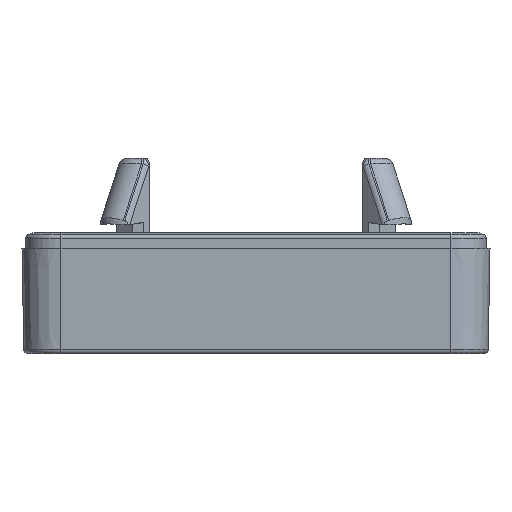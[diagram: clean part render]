
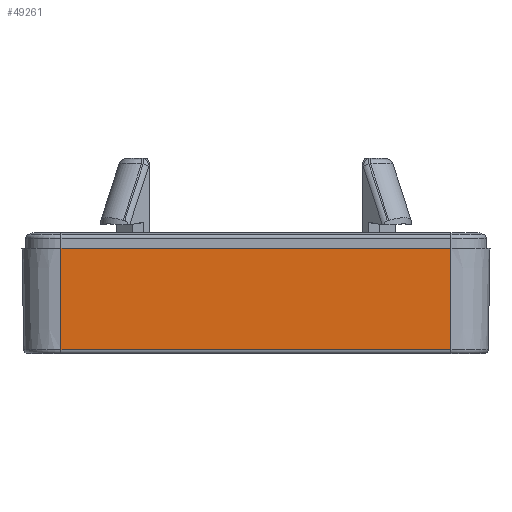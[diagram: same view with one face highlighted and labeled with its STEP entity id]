
A CAD part, left-side view. The second image highlights one B-rep face of the part: STEP entity #49261.
In plain terms, the highlighted planar face has unit normal (-1, 0, -0.018).
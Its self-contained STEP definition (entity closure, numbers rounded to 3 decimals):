
#1042=PLANE('',#53225);
#4915=FACE_OUTER_BOUND('',#8020,.T.);
#8020=EDGE_LOOP('',(#37242,#37243,#37244,#37245));
#11233=LINE('',#86318,#15581);
#11234=LINE('',#86320,#15582);
#11235=LINE('',#86322,#15583);
#11236=LINE('',#86323,#15584);
#15581=VECTOR('',#60467,10.);
#15582=VECTOR('',#60468,10.);
#15583=VECTOR('',#60469,10.);
#15584=VECTOR('',#60470,10.);
#22346=VERTEX_POINT('',#86316);
#22347=VERTEX_POINT('',#86317);
#22348=VERTEX_POINT('',#86319);
#22349=VERTEX_POINT('',#86321);
#27910=EDGE_CURVE('',#22346,#22347,#11233,.T.);
#27911=EDGE_CURVE('',#22348,#22346,#11234,.T.);
#27912=EDGE_CURVE('',#22349,#22348,#11235,.T.);
#27913=EDGE_CURVE('',#22349,#22347,#11236,.T.);
#37242=ORIENTED_EDGE('',*,*,#27910,.F.);
#37243=ORIENTED_EDGE('',*,*,#27911,.F.);
#37244=ORIENTED_EDGE('',*,*,#27912,.F.);
#37245=ORIENTED_EDGE('',*,*,#27913,.T.);
#49261=ADVANCED_FACE('',(#4915),#1042,.F.);
#53225=AXIS2_PLACEMENT_3D('',#86315,#60465,#60466);
#60465=DIRECTION('center_axis',(1.,0.,
0.017));
#60466=DIRECTION('ref_axis',(0.017,0.,-1.));
#60467=DIRECTION('',(0.,1.,0.));
#60468=DIRECTION('',(0.017,0.,-1.));
#60469=DIRECTION('',(0.,-1.,0.));
#60470=DIRECTION('',(0.017,0.,-1.));
#86315=CARTESIAN_POINT('Origin',(-74.,25.,0.));
#86316=CARTESIAN_POINT('',(-73.773,-25.,-13.009));
#86317=CARTESIAN_POINT('',(-73.773,25.,-13.009));
#86318=CARTESIAN_POINT('',(-73.773,19.916,-13.009));
#86319=CARTESIAN_POINT('',(-74.,-25.,0.));
#86320=CARTESIAN_POINT('',(-73.764,-25.,-13.5));
#86321=CARTESIAN_POINT('',(-74.,25.,0.));
#86322=CARTESIAN_POINT('',(-74.,0.,0.));
#86323=CARTESIAN_POINT('',(-73.764,25.,-13.5));
